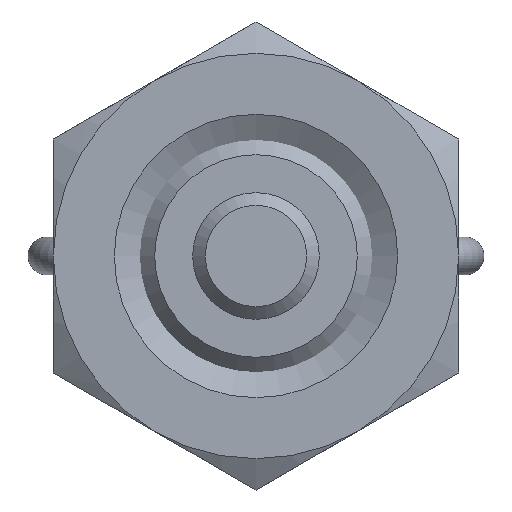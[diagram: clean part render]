
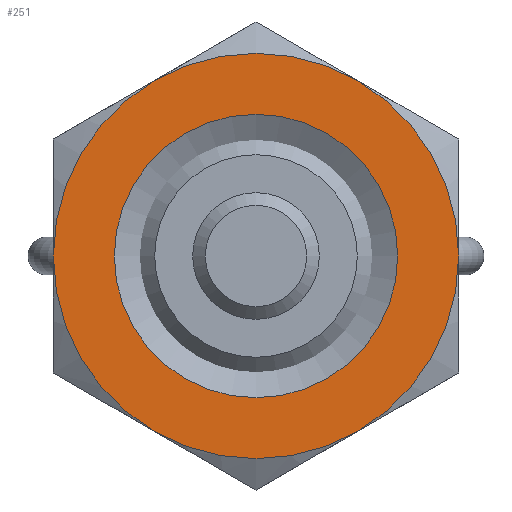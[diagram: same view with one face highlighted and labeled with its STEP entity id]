
A CAD part, front view. The second image highlights one B-rep face of the part: STEP entity #251.
In plain terms, the highlighted planar face has unit normal (0, -1, 0) as drawn and (1, 0, 0) by its records, which use the part's own axes.
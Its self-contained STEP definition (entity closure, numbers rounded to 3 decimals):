
#251 = ADVANCED_FACE( '', ( #393, #394 ), #395, .F. );
#393 = FACE_BOUND( '', #559, .T. );
#394 = FACE_OUTER_BOUND( '', #560, .T. );
#395 = PLANE( '', #561 );
#559 = EDGE_LOOP( '', ( #887 ) );
#560 = EDGE_LOOP( '', ( #888, #889, #890, #891, #892, #893 ) );
#561 = AXIS2_PLACEMENT_3D( '', #894, #895, #896 );
#887 = ORIENTED_EDGE( '', *, *, #1102, .F. );
#888 = ORIENTED_EDGE( '', *, *, #1103, .T. );
#889 = ORIENTED_EDGE( '', *, *, #1104, .T. );
#890 = ORIENTED_EDGE( '', *, *, #1105, .T. );
#891 = ORIENTED_EDGE( '', *, *, #1106, .T. );
#892 = ORIENTED_EDGE( '', *, *, #1107, .T. );
#893 = ORIENTED_EDGE( '', *, *, #1108, .T. );
#894 = CARTESIAN_POINT( '', ( 5., 8., 0. ) );
#895 = DIRECTION( '', ( -1., 0., 0. ) );
#896 = DIRECTION( '', ( 0., 0., 1. ) );
#1102 = EDGE_CURVE( '', #1280, #1280, #1281, .T. );
#1103 = EDGE_CURVE( '', #1282, #1283, #1284, .T. );
#1104 = EDGE_CURVE( '', #1283, #1262, #1285, .T. );
#1105 = EDGE_CURVE( '', #1262, #1253, #1286, .T. );
#1106 = EDGE_CURVE( '', #1253, #1274, #1287, .T. );
#1107 = EDGE_CURVE( '', #1274, #1288, #1289, .T. );
#1108 = EDGE_CURVE( '', #1288, #1282, #1290, .T. );
#1253 = VERTEX_POINT( '', #1578 );
#1262 = VERTEX_POINT( '', #1608 );
#1274 = VERTEX_POINT( '', #1646 );
#1280 = VERTEX_POINT( '', #1676 );
#1281 = CIRCLE( '', #1677, 5.594 );
#1282 = VERTEX_POINT( '', #1678 );
#1283 = VERTEX_POINT( '', #1679 );
#1284 = CIRCLE( '', #1680, 8. );
#1285 = CIRCLE( '', #1681, 8. );
#1286 = CIRCLE( '', #1682, 8. );
#1287 = CIRCLE( '', #1683, 8. );
#1288 = VERTEX_POINT( '', #1684 );
#1289 = CIRCLE( '', #1685, 8. );
#1290 = CIRCLE( '', #1686, 8. );
#1578 = CARTESIAN_POINT( '', ( 5., 0., 8. ) );
#1608 = CARTESIAN_POINT( '', ( 5., 6.928, 4. ) );
#1646 = CARTESIAN_POINT( '', ( 5., -6.928, 4. ) );
#1676 = CARTESIAN_POINT( '', ( 5., 0., -5.594 ) );
#1677 = AXIS2_PLACEMENT_3D( '', #1931, #1932, #1933 );
#1678 = CARTESIAN_POINT( '', ( 5., 0., -8. ) );
#1679 = CARTESIAN_POINT( '', ( 5., 6.928, -4. ) );
#1680 = AXIS2_PLACEMENT_3D( '', #1934, #1935, #1936 );
#1681 = AXIS2_PLACEMENT_3D( '', #1937, #1938, #1939 );
#1682 = AXIS2_PLACEMENT_3D( '', #1940, #1941, #1942 );
#1683 = AXIS2_PLACEMENT_3D( '', #1943, #1944, #1945 );
#1684 = CARTESIAN_POINT( '', ( 5., -6.928, -4. ) );
#1685 = AXIS2_PLACEMENT_3D( '', #1946, #1947, #1948 );
#1686 = AXIS2_PLACEMENT_3D( '', #1949, #1950, #1951 );
#1931 = CARTESIAN_POINT( '', ( 5., 0., 0. ) );
#1932 = DIRECTION( '', ( 1., 0., 0. ) );
#1933 = DIRECTION( '', ( 0., 0., -1. ) );
#1934 = CARTESIAN_POINT( '', ( 5., 0., 0. ) );
#1935 = DIRECTION( '', ( 1., 0., 0. ) );
#1936 = DIRECTION( '', ( 0., 0., -1. ) );
#1937 = CARTESIAN_POINT( '', ( 5., 0., 0. ) );
#1938 = DIRECTION( '', ( 1., 0., 0. ) );
#1939 = DIRECTION( '', ( 0., 0., -1. ) );
#1940 = CARTESIAN_POINT( '', ( 5., 0., 0. ) );
#1941 = DIRECTION( '', ( 1., 0., 0. ) );
#1942 = DIRECTION( '', ( 0., 0., -1. ) );
#1943 = CARTESIAN_POINT( '', ( 5., 0., 0. ) );
#1944 = DIRECTION( '', ( 1., 0., 0. ) );
#1945 = DIRECTION( '', ( 0., 0., -1. ) );
#1946 = CARTESIAN_POINT( '', ( 5., 0., 0. ) );
#1947 = DIRECTION( '', ( 1., 0., 0. ) );
#1948 = DIRECTION( '', ( 0., 0., -1. ) );
#1949 = CARTESIAN_POINT( '', ( 5., 0., 0. ) );
#1950 = DIRECTION( '', ( 1., 0., 0. ) );
#1951 = DIRECTION( '', ( 0., 0., -1. ) );
